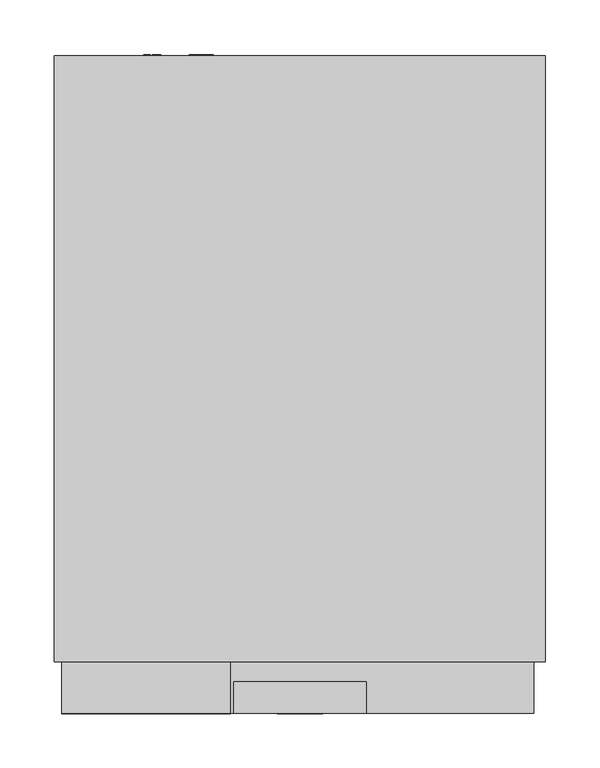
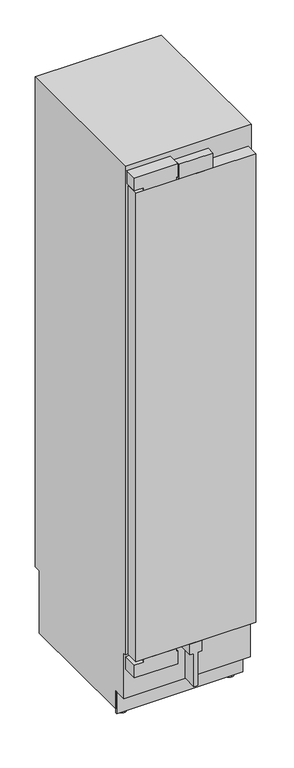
"""IFC4 building model written with IfcOpenShell, lengths in millimetres: proxy geometry, 12021680_D_F2413VI : 37241301_D_12021680_F2413VI."""

from ifc_helpers import new_model, si_unit, point, frame, frame_2d, origin, place, context, project, spatial, polyline, circle_curve, trimmed, segment, composite_curve, outline, extrude, source, transform, mapped, element, save
from ifc_brep_helpers import plane_surface, cylinder_surface, advanced_brep


def specialty_equipment_f355906c(model_context):
    return source(origin(), model_context, "Body", "SolidModel", [
        extrude(outline(polyline([(-214.5, 47.0), (214.5, 47.0), (214.5, 0.0), (-214.5, 0.0), (-214.5, 47.0)])), frame((0.0, 0.0, 265.0), z_axis=(0.0, 0.0, 1.0), x_axis=(1.0, 0.0, 0.0)), (0.0, 0.0, 1.0), 1771.0),
        extrude(outline(polyline([(-61.0, 29.0), (61.0, 29.0), (61.0, 0.0), (-61.0, 0.0), (-61.0, 29.0)])), frame((0.0, 0.0, 2036.0), z_axis=(0.0, 0.0, 1.0), x_axis=(1.0, 0.0, 0.0)), (0.0, 0.0, 1.0), 56.0),
        extrude(outline(polyline([(265.0, 21.0), (265.0, 0.0), (265.0, -21.0), (224.0, -21.0), (224.0, -6.5), (99.0, -6.5), (99.0, 0.0), (99.0, 6.5), (224.0, 6.5), (224.0, 21.0), (265.0, 21.0)])), frame((0.0, 0.0, 0.0), z_axis=(0.0, 1.0, 0.0), x_axis=(0.0, 0.0, 1.0)), (0.0, 0.0, 1.0), 54.0),
        extrude(outline(polyline([(519.0, 1998.0), (519.0, 1791.0), (450.0, 1791.0), (422.0, 1867.0), (201.7448904, 1867.0), (157.0, 1939.0), (87.0, 1949.0), (87.0, 1998.0), (519.0, 1998.0)])), frame((-179.5, 0.0, 0.0), z_axis=(1.0, 0.0, 0.0), x_axis=(0.0, 1.0, 0.0)), (0.0, 0.0, 1.0), 359.0),
        extrude(outline(polyline([(196.9886114, 1875.0), (195.809433, 1875.0), (158.6921935, 1934.4), (159.8713719, 1934.4), (196.9886114, 1875.0)])), frame((-69.0, 0.0, 0.0), z_axis=(1.0, 0.0, 0.0), x_axis=(0.0, 1.0, 0.0)), (0.0, 0.0, 1.0), 138.0),
        extrude(outline(polyline([(46.0510837, -89.101717), (37.4134902, -91.1745179), (46.0453554, -93.6868463), (46.0453554, -95.5601414), (37.4089549, -98.0799633), (46.0493903, -100.1581876), (46.0493903, -101.4649805), (36.0005458, -98.7156324), (36.0005458, -97.372208), (44.8261022, -94.6342221), (35.9987467, -92.0620509), (35.9987287, -90.5451466), (46.0510837, -87.800191), (46.0510837, -89.101717)])), frame((0.0, 604.0, 0.0), z_axis=(0.0, 1.0, 0.0), x_axis=(0.0, 0.0, 1.0)), (0.0, 0.0, 1.0), 1.0),
        extrude(outline(polyline([(46.0485238, -80.7401503), (41.1363122, -80.7401503), (46.0468162, -85.884602), (46.0468162, -87.6328316), (41.9156889, -83.3260313), (36.000035, -87.8032231), (36.000035, -86.2795519), (41.0742849, -82.4391666), (39.4525334, -80.7395503), (35.9999292, -80.7395503), (35.9999292, -79.4795491), (46.0485238, -79.4795491), (46.0485238, -80.7401503)])), frame((0.0, 604.0, 0.0), z_axis=(0.0, 1.0, 0.0), x_axis=(0.0, 0.0, 1.0)), (0.0, 0.0, 1.0), 1.0),
        extrude(outline(composite_curve([segment(trimmed(circle_curve(frame_2d((41.0, -90.0)), 7.5), [point((33.5, -90.0))], [point((48.5, -90.0))], False, "CARTESIAN"), True, "CONTINUOUS"), segment(trimmed(circle_curve(frame_2d((41.0, -90.0)), 7.5), [point((48.5, -90.0))], [point((33.5, -90.0))], False, "CARTESIAN"), True, "CONTINUOUS")], self_intersect=False)), frame((0.0, 577.0, 0.0), z_axis=(0.0, 1.0, 0.0), x_axis=(0.0, 0.0, 1.0)), (0.0, 0.0, 1.0), 27.0),
        extrude(outline(polyline([(2095.0, -219.0), (2047.0, -219.0), (2047.0, -185.0), (2036.5, -185.0), (2036.5, -70.0), (2047.0, -70.0), (2047.0, -64.0), (2095.0, -64.0), (2095.0, -219.0)])), frame((0.0, 0.0, 0.0), z_axis=(0.0, 1.0, 0.0), x_axis=(0.0, 0.0, 1.0)), (0.0, 0.0, 1.0), 47.0),
        extrude(outline(polyline([(254.0, -219.0), (206.0, -219.0), (206.0, -64.0), (254.0, -64.0), (254.0, -70.0), (264.0, -70.0), (264.0, -185.0), (254.0, -185.0), (254.0, -219.0)])), frame((0.0, 0.0, 0.0), z_axis=(0.0, 1.0, 0.0), x_axis=(0.0, 0.0, 1.0)), (0.0, 0.0, 1.0), 54.0),
        extrude(outline(polyline([(99.0373308, -135.2645771), (97.7615342, -135.2645771), (97.7615342, -129.3195541), (94.7968516, -129.3195541), (94.7968516, -134.969579), (93.5246295, -134.969579), (93.5246295, -129.3415693), (90.2570046, -129.3415693), (90.2570046, -135.4619689), (88.9546219, -135.4619689), (88.9546219, -128.0443524), (99.0373308, -128.0443524), (99.0373308, -135.2645771)])), frame((0.0, 604.0, 0.0), z_axis=(0.0, 1.0, 0.0), x_axis=(0.0, 0.0, 1.0)), (0.0, 0.0, 1.0), 1.0),
        extrude(outline(polyline([(99.0458, -138.5619704), (90.2663944, -138.5619704), (90.2663944, -143.6145879), (89.0134802, -143.6145879), (89.0134802, -137.3423809), (99.0458, -137.3423809), (99.0458, -138.5619704)])), frame((0.0, 604.0, 0.0), z_axis=(0.0, 1.0, 0.0), x_axis=(0.0, 0.0, 1.0)), (0.0, 0.0, 1.0), 1.0),
        extrude(outline(composite_curve([segment(trimmed(circle_curve(frame_2d((94.0, -135.5)), 7.5), [point((86.5, -135.5))], [point((101.5, -135.5))], False, "CARTESIAN"), True, "CONTINUOUS"), segment(trimmed(circle_curve(frame_2d((94.0, -135.5)), 7.5), [point((101.5, -135.5))], [point((86.5, -135.5))], False, "CARTESIAN"), True, "CONTINUOUS")], self_intersect=False)), frame((0.0, 577.0, 0.0), z_axis=(0.0, 1.0, 0.0), x_axis=(0.0, 0.0, 1.0)), (0.0, 0.0, 1.0), 27.0),
        extrude(outline(polyline([(-225.5, 104.0), (225.5, 104.0), (225.5, 99.0), (-225.5, 99.0), (-225.5, 104.0)])), frame((0.0, 0.0, 14.0), z_axis=(0.0, 0.0, 1.0), x_axis=(1.0, 0.0, 0.0)), (0.0, 0.0, 1.0), 83.0),
        advanced_brep(
        [(-191.5, 139.0, 0.0), (-191.5, 109.0, 0.0), (-191.5, 139.0, 7.0), (-191.5, 109.0, 7.0), (-191.5, 128.7, 7.0), (-191.5, 119.3, 7.0), (-191.5, 128.7, 28.0), (-191.5, 119.3, 28.0)],
        [
            (0, 1, circle_curve(frame((-191.5, 124.0, 0.0), z_axis=(0.0, 0.0, -1.0), x_axis=(1.0, 0.0, 0.0)), 15.0)),
            (1, 0, circle_curve(frame((-191.5, 124.0, 0.0), z_axis=(0.0, 0.0, -1.0), x_axis=(1.0, 0.0, 0.0)), 15.0)),
            (2, 3, circle_curve(frame((-191.5, 124.0, 7.0), z_axis=(0.0, 0.0, 1.0), x_axis=(1.0, 0.0, 0.0)), 15.0)),
            (3, 2, circle_curve(frame((-191.5, 124.0, 7.0), z_axis=(0.0, 0.0, 1.0), x_axis=(1.0, 0.0, 0.0)), 15.0)),
            (4, 5, circle_curve(frame((-191.5, 124.0, 7.0), z_axis=(0.0, 0.0, -1.0), x_axis=(0.0, -1.0, 0.0)), 4.7)),
            (5, 4, circle_curve(frame((-191.5, 124.0, 7.0), z_axis=(0.0, 0.0, -1.0), x_axis=(0.0, -1.0, 0.0)), 4.7)),
            (0, 2),
            (3, 1),
            (6, 7, circle_curve(frame((-191.5, 124.0, 28.0), z_axis=(0.0, 0.0, 1.0), x_axis=(0.0, -1.0, 0.0)), 4.7)),
            (7, 6, circle_curve(frame((-191.5, 124.0, 28.0), z_axis=(0.0, 0.0, 1.0), x_axis=(0.0, -1.0, 0.0)), 4.7)),
            (7, 5),
            (4, 6),
        ],
        [
            plane_surface(frame((-176.5, 124.0, 0.0), z_axis=(0.0, 0.0, -1.0), x_axis=(0.0, -1.0, 0.0))),
            plane_surface(frame((-176.5, 124.0, 7.0), z_axis=(0.0, 0.0, 1.0), x_axis=(0.0, 1.0, 0.0))),
            cylinder_surface(frame((-191.5, 124.0, 7.0), z_axis=(0.0, 0.0, -1.0), x_axis=(1.0, 0.0, 0.0)), 15.0),
            plane_surface(frame((-191.5, 119.3, 28.0), z_axis=(0.0, 0.0, 1.0), x_axis=(1.0, 0.0, 0.0))),
            cylinder_surface(frame((-191.5, 124.0, 28.0), z_axis=(0.0, 0.0, -1.0), x_axis=(0.0, -1.0, 0.0)), 4.7),
        ],
        [
            (0, [[1, 2]]),
            (1, [[3, 4], [5, 6]]),
            (2, [[-1, 7, -4, 8]]),
            (2, [[-2, -8, -3, -7]]),
            (3, [[9, 10]]),
            (4, [[-10, 11, -5, 12]]),
            (4, [[-9, -12, -6, -11]]),
        ],
    ),
        advanced_brep(
        [(191.5, 139.0, 0.0), (191.5, 109.0, 0.0), (191.5, 139.0, 7.0), (191.5, 109.0, 7.0), (191.5, 128.7, 7.0), (191.5, 119.3, 7.0), (191.5, 128.7, 28.0), (191.5, 119.3, 28.0)],
        [
            (0, 1, circle_curve(frame((191.5, 124.0, 0.0), z_axis=(0.0, 0.0, -1.0), x_axis=(1.0, 0.0, 0.0)), 15.0)),
            (1, 0, circle_curve(frame((191.5, 124.0, 0.0), z_axis=(0.0, 0.0, -1.0), x_axis=(1.0, 0.0, 0.0)), 15.0)),
            (2, 3, circle_curve(frame((191.5, 124.0, 7.0), z_axis=(0.0, 0.0, 1.0), x_axis=(1.0, 0.0, 0.0)), 15.0)),
            (3, 2, circle_curve(frame((191.5, 124.0, 7.0), z_axis=(0.0, 0.0, 1.0), x_axis=(1.0, 0.0, 0.0)), 15.0)),
            (4, 5, circle_curve(frame((191.5, 124.0, 7.0), z_axis=(0.0, 0.0, -1.0), x_axis=(0.0, -1.0, 0.0)), 4.7)),
            (5, 4, circle_curve(frame((191.5, 124.0, 7.0), z_axis=(0.0, 0.0, -1.0), x_axis=(0.0, -1.0, 0.0)), 4.7)),
            (0, 2),
            (3, 1),
            (6, 7, circle_curve(frame((191.5, 124.0, 28.0), z_axis=(0.0, 0.0, 1.0), x_axis=(0.0, -1.0, 0.0)), 4.7)),
            (7, 6, circle_curve(frame((191.5, 124.0, 28.0), z_axis=(0.0, 0.0, 1.0), x_axis=(0.0, -1.0, 0.0)), 4.7)),
            (7, 5),
            (4, 6),
        ],
        [
            plane_surface(frame((-176.5, 124.0, 0.0), z_axis=(0.0, 0.0, -1.0), x_axis=(0.0, -1.0, 0.0))),
            plane_surface(frame((-176.5, 124.0, 7.0), z_axis=(0.0, 0.0, 1.0), x_axis=(0.0, 1.0, 0.0))),
            cylinder_surface(frame((191.5, 124.0, 7.0), z_axis=(0.0, 0.0, -1.0), x_axis=(1.0, 0.0, 0.0)), 15.0),
            plane_surface(frame((-191.5, 119.3, 28.0), z_axis=(0.0, 0.0, 1.0), x_axis=(1.0, 0.0, 0.0))),
            cylinder_surface(frame((191.5, 124.0, 28.0), z_axis=(0.0, 0.0, -1.0), x_axis=(0.0, -1.0, 0.0)), 4.7),
        ],
        [
            (0, [[1, 2]]),
            (1, [[3, 4], [5, 6]]),
            (2, [[-1, 7, -4, 8]]),
            (2, [[-2, -8, -3, -7]]),
            (3, [[9, 10]]),
            (4, [[-10, 11, -5, 12]]),
            (4, [[-9, -12, -6, -11]]),
        ],
    ),
        advanced_brep(
        [(225.5, 47.0, 2114.0), (225.5, 47.0, 267.0), (225.5, 54.0, 267.0), (225.5, 54.0, 97.0), (225.5, 104.0, 97.0), (225.5, 104.0, 28.0), (225.5, 577.0, 28.0), (225.5, 577.0, 263.0), (225.5, 604.0, 263.0), (225.5, 604.0, 2114.0), (-225.5, 47.0, 2114.0), (-225.5, 604.0, 2114.0), (-225.5, 604.0, 263.0), (-225.5, 577.0, 263.0), (-225.5, 577.0, 28.0), (-225.5, 104.0, 28.0), (-225.5, 104.0, 97.0), (-225.5, 54.0, 97.0), (-225.5, 54.0, 267.0), (-225.5, 47.0, 267.0), (165.5, 577.0, 28.0), (165.5, 577.0, 14.0), (-165.5, 577.0, 14.0), (-165.5, 577.0, 28.0), (165.5, 104.0, 14.0), (-165.5, 104.0, 14.0), (-165.5, 104.0, 28.0), (165.5, 104.0, 28.0), (179.5, 47.0, 1998.0), (179.5, 47.0, 343.0), (-179.5, 47.0, 343.0), (-179.5, 47.0, 1998.0), (179.5, 519.0, 1998.0), (-179.5, 519.0, 1998.0), (-179.5, 519.0, 343.0), (179.5, 519.0, 343.0), (-184.0, 202.8193473, 28.0), (-203.0, 202.8193473, 28.0), (-203.0, 153.1806527, 28.0), (-184.0, 153.1806527, 28.0), (-203.5, 525.8193473, 28.0), (-203.5, 476.1806527, 28.0), (-187.5, 476.1806527, 28.0), (-187.5, 525.8193473, 28.0), (203.0, 153.1806527, 28.0), (203.0, 202.8193473, 28.0), (184.0, 202.8193473, 28.0), (184.0, 153.1806527, 28.0), (187.5, 525.8193473, 28.0), (187.5, 476.1806527, 28.0), (203.5, 476.1806527, 28.0), (203.5, 525.8193473, 28.0), (-184.0, 203.0, 25.0), (-184.0, 153.0, 25.0), (-203.0, 153.0, 25.0), (-203.0, 203.0, 25.0), (-184.0, 178.0, 25.0), (-203.0, 178.0, 25.0), (203.0, 178.0, 25.0), (203.0, 153.0, 25.0), (203.0, 203.0, 25.0), (184.0, 203.0, 25.0), (184.0, 153.0, 25.0), (184.0, 178.0, 25.0), (-203.5, 526.0, 25.0), (-203.5, 476.0, 25.0), (-203.5, 501.0, 25.0), (-187.5, 526.0, 25.0), (-187.5, 476.0, 25.0), (-187.5, 501.0, 25.0), (187.5, 526.0, 25.0), (187.5, 476.0, 25.0), (187.5, 501.0, 25.0), (203.5, 526.0, 25.0), (203.5, 476.0, 25.0), (203.5, 501.0, 25.0)],
        [
            (0, 1),
            (1, 2),
            (2, 3),
            (3, 4),
            (4, 5),
            (5, 6),
            (6, 7),
            (7, 8),
            (8, 9),
            (9, 0),
            (10, 11),
            (11, 12),
            (12, 13),
            (13, 14),
            (14, 15),
            (15, 16),
            (16, 17),
            (17, 18),
            (18, 19),
            (19, 10),
            (9, 11),
            (10, 0),
            (8, 12),
            (7, 13),
            (6, 20),
            (20, 21),
            (21, 22),
            (22, 23),
            (23, 14),
            (21, 24),
            (24, 25),
            (25, 22),
            (4, 16),
            (15, 26),
            (26, 25),
            (24, 27),
            (27, 5),
            (3, 17),
            (2, 18),
            (1, 19),
            (28, 29),
            (29, 30),
            (30, 31),
            (31, 28),
            (32, 33),
            (33, 34),
            (34, 35),
            (35, 32),
            (35, 29),
            (28, 32),
            (34, 30),
            (33, 31),
            (23, 26),
            (36, 37),
            (37, 38),
            (38, 39),
            (39, 36),
            (40, 41),
            (41, 42),
            (42, 43),
            (43, 40),
            (27, 20),
            (44, 45),
            (45, 46),
            (46, 47),
            (47, 44),
            (48, 49),
            (49, 50),
            (50, 51),
            (51, 48),
            (52, 53, circle_curve(frame((-184.0, 178.0, 25.0), z_axis=(-1.0, 0.0, 0.0), x_axis=(0.0, -1.0, 0.0)), 25.0)),
            (53, 54),
            (54, 55, circle_curve(frame((-203.0, 178.0, 25.0), z_axis=(1.0, 0.0, 0.0), x_axis=(0.0, -1.0, 0.0)), 25.0)),
            (55, 52),
            (53, 39, circle_curve(frame((-184.0, 178.0, 25.0), z_axis=(-1.0, 0.0, 0.0), x_axis=(0.0, -1.0, 0.0)), 25.0)),
            (38, 54, circle_curve(frame((-203.0, 178.0, 25.0), z_axis=(1.0, 0.0, 0.0), x_axis=(0.0, -1.0, 0.0)), 25.0)),
            (55, 37, circle_curve(frame((-203.0, 178.0, 25.0), z_axis=(1.0, 0.0, 0.0), x_axis=(0.0, -1.0, 0.0)), 25.0)),
            (36, 52, circle_curve(frame((-184.0, 178.0, 25.0), z_axis=(-1.0, 0.0, 0.0), x_axis=(0.0, -1.0, 0.0)), 25.0)),
            (52, 56),
            (56, 53),
            (54, 57),
            (57, 55),
            (58, 59),
            (59, 60, circle_curve(frame((203.0, 178.0, 25.0), z_axis=(1.0, 0.0, 0.0), x_axis=(0.0, -1.0, 0.0)), 25.0)),
            (60, 58),
            (60, 45, circle_curve(frame((203.0, 178.0, 25.0), z_axis=(1.0, 0.0, 0.0), x_axis=(0.0, -1.0, 0.0)), 25.0)),
            (44, 59, circle_curve(frame((203.0, 178.0, 25.0), z_axis=(1.0, 0.0, 0.0), x_axis=(0.0, -1.0, 0.0)), 25.0)),
            (61, 62, circle_curve(frame((184.0, 178.0, 25.0), z_axis=(-1.0, 0.0, 0.0), x_axis=(0.0, -1.0, 0.0)), 25.0)),
            (62, 63),
            (63, 61),
            (62, 47, circle_curve(frame((184.0, 178.0, 25.0), z_axis=(-1.0, 0.0, 0.0), x_axis=(0.0, -1.0, 0.0)), 25.0)),
            (46, 61, circle_curve(frame((184.0, 178.0, 25.0), z_axis=(-1.0, 0.0, 0.0), x_axis=(0.0, -1.0, 0.0)), 25.0)),
            (64, 65, circle_curve(frame((-203.5, 501.0, 25.0), z_axis=(-1.0, 0.0, 0.0), x_axis=(0.0, -1.0, 0.0)), 25.0)),
            (65, 66),
            (66, 64),
            (65, 41, circle_curve(frame((-203.5, 501.0, 25.0), z_axis=(-1.0, 0.0, 0.0), x_axis=(0.0, -1.0, 0.0)), 25.0)),
            (40, 64, circle_curve(frame((-203.5, 501.0, 25.0), z_axis=(-1.0, 0.0, 0.0), x_axis=(0.0, -1.0, 0.0)), 25.0)),
            (64, 67),
            (67, 68, circle_curve(frame((-187.5, 501.0, 25.0), z_axis=(-1.0, 0.0, 0.0), x_axis=(0.0, -1.0, 0.0)), 25.0)),
            (68, 65),
            (43, 67, circle_curve(frame((-187.5, 501.0, 25.0), z_axis=(-1.0, 0.0, 0.0), x_axis=(0.0, -1.0, 0.0)), 25.0)),
            (68, 42, circle_curve(frame((-187.5, 501.0, 25.0), z_axis=(-1.0, 0.0, 0.0), x_axis=(0.0, -1.0, 0.0)), 25.0)),
            (67, 69),
            (69, 68),
            (70, 71, circle_curve(frame((187.5, 501.0, 25.0), z_axis=(-1.0, 0.0, 0.0), x_axis=(0.0, -1.0, 0.0)), 25.0)),
            (71, 72),
            (72, 70),
            (71, 49, circle_curve(frame((187.5, 501.0, 25.0), z_axis=(-1.0, 0.0, 0.0), x_axis=(0.0, -1.0, 0.0)), 25.0)),
            (48, 70, circle_curve(frame((187.5, 501.0, 25.0), z_axis=(-1.0, 0.0, 0.0), x_axis=(0.0, -1.0, 0.0)), 25.0)),
            (70, 73),
            (73, 74, circle_curve(frame((203.5, 501.0, 25.0), z_axis=(-1.0, 0.0, 0.0), x_axis=(0.0, -1.0, 0.0)), 25.0)),
            (74, 71),
            (51, 73, circle_curve(frame((203.5, 501.0, 25.0), z_axis=(-1.0, 0.0, 0.0), x_axis=(0.0, -1.0, 0.0)), 25.0)),
            (74, 50, circle_curve(frame((203.5, 501.0, 25.0), z_axis=(-1.0, 0.0, 0.0), x_axis=(0.0, -1.0, 0.0)), 25.0)),
            (73, 75),
            (75, 74),
            (59, 62),
            (61, 60),
        ],
        [
            plane_surface(frame((225.5, 604.0, 2114.0), z_axis=(1.0, 0.0, 0.0), x_axis=(0.0, -1.0, 0.0))),
            plane_surface(frame((-225.5, 604.0, 2114.0), z_axis=(-1.0, 0.0, 0.0), x_axis=(0.0, 1.0, 0.0))),
            plane_surface(frame((-225.5, 47.0, 2114.0), z_axis=(0.0, 0.0, 1.0), x_axis=(1.0, 0.0, 0.0))),
            plane_surface(frame((-225.5, 604.0, 2114.0), z_axis=(0.0, 1.0, 0.0), x_axis=(1.0, 0.0, 0.0))),
            plane_surface(frame((-225.5, 604.0, 263.0), z_axis=(0.0, 0.0, -1.0), x_axis=(1.0, 0.0, 0.0))),
            plane_surface(frame((-225.5, 577.0, 263.0), z_axis=(0.0, 1.0, 0.0), x_axis=(1.0, 0.0, 0.0))),
            plane_surface(frame((-225.5, 577.0, 14.0), z_axis=(0.0, 0.0, -1.0), x_axis=(1.0, 0.0, 0.0))),
            plane_surface(frame((-225.5, 104.0, 14.0), z_axis=(0.0, -1.0, 0.0), x_axis=(1.0, 0.0, 0.0))),
            plane_surface(frame((-225.5, 104.0, 97.0), z_axis=(0.0, 0.0, -1.0), x_axis=(1.0, 0.0, 0.0))),
            plane_surface(frame((-225.5, 54.0, 97.0), z_axis=(0.0, -1.0, 0.0), x_axis=(1.0, 0.0, 0.0))),
            plane_surface(frame((-225.5, 54.0, 267.0), z_axis=(0.0, 0.0, -1.0), x_axis=(1.0, 0.0, 0.0))),
            plane_surface(frame((-225.5, 47.0, 267.0), z_axis=(0.0, -1.0, 0.0), x_axis=(1.0, 0.0, 0.0))),
            plane_surface(frame((179.5, 519.0, 1998.0), z_axis=(0.0, -1.0, 0.0), x_axis=(0.0, 0.0, -1.0))),
            plane_surface(frame((179.5, 519.0, 1998.0), z_axis=(-1.0, 0.0, 0.0), x_axis=(0.0, -1.0, 0.0))),
            plane_surface(frame((179.5, 519.0, 343.0), z_axis=(0.0, 0.0, 1.0), x_axis=(0.0, -1.0, 0.0))),
            plane_surface(frame((-179.5, 519.0, 343.0), z_axis=(1.0, 0.0, 0.0), x_axis=(0.0, -1.0, 0.0))),
            plane_surface(frame((-179.5, 519.0, 1998.0), z_axis=(0.0, 0.0, -1.0), x_axis=(0.0, -1.0, 0.0))),
            plane_surface(frame((-225.5, 604.0, 28.0), z_axis=(0.0, 0.0, -1.0), x_axis=(-1.0, 0.0, 0.0))),
            plane_surface(frame((-165.5, 104.0, 28.0), z_axis=(-1.0, 0.0, 0.0), x_axis=(0.0, 0.0, -1.0))),
            plane_surface(frame((165.5, 604.0, 28.0), z_axis=(1.0, 0.0, 0.0), x_axis=(0.0, 0.0, -1.0))),
            cylinder_surface(frame((-318.1988927, 178.0, 25.0), z_axis=(1.0, 0.0, 0.0), x_axis=(0.0, -1.0, 0.0)), 25.0),
            plane_surface(frame((-184.0, 178.0, 25.0), z_axis=(1.0, 0.0, 0.0), x_axis=(0.0, -1.0, 0.0))),
            plane_surface(frame((-203.0, 178.0, 25.0), z_axis=(-1.0, 0.0, 0.0), x_axis=(0.0, -1.0, 0.0))),
            plane_surface(frame((203.0, 178.0, 25.0), z_axis=(1.0, 0.0, 0.0), x_axis=(0.0, -1.0, 0.0))),
            plane_surface(frame((184.0, 178.0, 25.0), z_axis=(-1.0, 0.0, 0.0), x_axis=(0.0, -1.0, 0.0))),
            plane_surface(frame((-203.5, 501.0, 25.0), z_axis=(-1.0, 0.0, 0.0), x_axis=(0.0, -1.0, 0.0))),
            cylinder_surface(frame((-318.1988927, 501.0, 25.0), z_axis=(1.0, 0.0, 0.0), x_axis=(0.0, -1.0, 0.0)), 25.0),
            plane_surface(frame((-187.5, 501.0, 25.0), z_axis=(1.0, 0.0, 0.0), x_axis=(0.0, -1.0, 0.0))),
            plane_surface(frame((187.5, 501.0, 25.0), z_axis=(-1.0, 0.0, 0.0), x_axis=(0.0, -1.0, 0.0))),
            plane_surface(frame((203.5, 501.0, 25.0), z_axis=(1.0, 0.0, 0.0), x_axis=(0.0, -1.0, 0.0))),
        ],
        [
            (0, [[1, 2, 3, 4, 5, 6, 7, 8, 9, 10]]),
            (1, [[11, 12, 13, 14, 15, 16, 17, 18, 19, 20]]),
            (2, [[-10, 21, -11, 22]]),
            (3, [[-9, 23, -12, -21]]),
            (4, [[-8, 24, -13, -23]]),
            (5, [[-24, -7, 25, 26, 27, 28, 29, -14]]),
            (6, [[-27, 30, 31, 32]]),
            (7, [[33, -16, 34, 35, -31, 36, 37, -5]]),
            (8, [[-4, 38, -17, -33]]),
            (9, [[-3, 39, -18, -38]]),
            (10, [[-2, 40, -19, -39]]),
            (11, [[-1, -22, -20, -40], [41, 42, 43, 44]]),
            (12, [[45, 46, 47, 48]]),
            (13, [[-48, 49, -41, 50]]),
            (14, [[-47, 51, -42, -49]]),
            (15, [[-46, 52, -43, -51]]),
            (16, [[-45, -50, -44, -52]]),
            (17, [[53, -34, -15, -29], [54, 55, 56, 57], [58, 59, 60, 61]]),
            (17, [[62, -25, -6, -37], [63, 64, 65, 66], [67, 68, 69, 70]]),
            (18, [[-53, -28, -32, -35]]),
            (19, [[-62, -36, -30, -26]]),
            (20, [[71, 72, 73, 74]]),
            (20, [[-72, 75, -56, 76]]),
            (20, [[-74, 77, -54, 78]]),
            (21, [[-71, 79, 80]]),
            (21, [[-80, -79, -78, -57, -75]]),
            (22, [[-73, 81, 82]]),
            (22, [[-81, -76, -55, -77, -82]]),
            (23, [[83, 84, 85]]),
            (23, [[-83, -85, 86, -63, 87]]),
            (24, [[88, 89, 90]]),
            (24, [[-89, 91, -65, 92, -90]]),
            (25, [[93, 94, 95]]),
            (25, [[-94, 96, -58, 97, -95]]),
            (26, [[-93, 98, 99, 100]]),
            (26, [[-98, -97, -61, 101]]),
            (26, [[-100, 102, -59, -96]]),
            (27, [[-99, 103, 104]]),
            (27, [[-104, -103, -101, -60, -102]]),
            (28, [[105, 106, 107]]),
            (28, [[-106, 108, -67, 109, -107]]),
            (26, [[-105, 110, 111, 112]]),
            (26, [[-110, -109, -70, 113]]),
            (26, [[-112, 114, -68, -108]]),
            (29, [[-111, 115, 116]]),
            (29, [[-116, -115, -113, -69, -114]]),
            (20, [[-84, 117, -88, 118]]),
            (20, [[-117, -87, -66, -91]]),
            (20, [[-118, -92, -64, -86]]),
        ],
    ),
    ])


if __name__ == "__main__":
    model = new_model("IFC4")
    model_context = context("Model", 3, world=origin())
    ifc_project = project(units=[si_unit("LENGTHUNIT", "METRE", prefix="MILLI")], contexts=[model_context])
    site = spatial("IfcSite", under=ifc_project)
    building = spatial("IfcBuilding", under=site)
    placement = place(None, origin())
    specialty_equipment_shape = specialty_equipment_f355906c(model_context)
    element("IfcBuildingElementProxy", 1, Name="12021680_D_F2413VI : 37241301_D_12021680_F2413VI", ObjectType="12021680_D_F2413VI : 37241301_D_12021680_F2413VI", at=placement, inside=building, context=model_context, shape_type="MappedRepresentation", body=[
        mapped(specialty_equipment_shape, transform((0.0, 0.0, 0.0), x_axis=(1.0, 0.0, 0.0), y_axis=(0.0, 1.0, 0.0), z_axis=(0.0, 0.0, 1.0))),
    ])
    save(model, "model.ifc")
